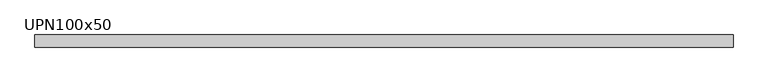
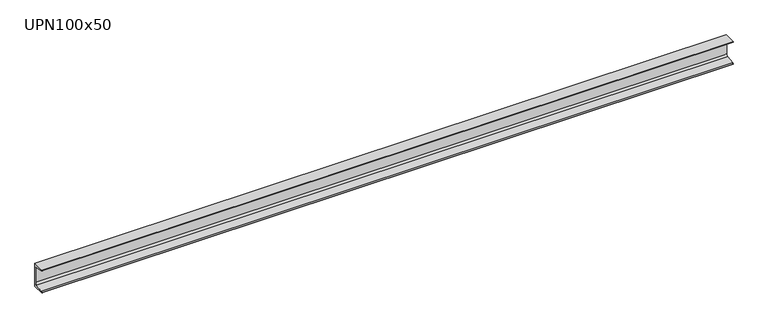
"""IFC4 building model written with IfcOpenShell, lengths in millimetres: beam geometry, M_MC Shapes : UPN100x50."""

from ifc_helpers import new_model, si_unit, point, frame, frame_2d, origin, place, context, project, spatial, polyline, circle_curve, trimmed, segment, composite_curve, outline, extrude, source, transform, mapped, element, save


def upn100x50_32115c67(model_context):
    return source(origin(), model_context, "Body", "SweptSolid", [
        extrude(outline(composite_curve([segment(polyline([(10.9, 50.0), (10.9, -50.0), (-39.1, -50.0), (-39.1, -49.0253247)]), True, "CONTINUOUS"), segment(trimmed(circle_curve(frame_2d((-35.15, -49.0253247)), 3.95), [point((-39.1, -49.0253247))], [point((-35.7993773, -45.1290689))], False, "CARTESIAN"), True, "CONTINUOUS"), segment(polyline([(-35.7993773, -45.1290689), (-0.2512455, -39.2043685)]), True, "CONTINUOUS"), segment(trimmed(circle_curve(frame_2d((-1.55, -31.4118569)), 7.9), [point((-0.2512455, -39.2043685))], [point((6.35, -31.4118569))], True, "CARTESIAN"), True, "CONTINUOUS"), segment(polyline([(6.35, -31.4118569), (6.35, 31.4118569)]), True, "CONTINUOUS"), segment(trimmed(circle_curve(frame_2d((-1.55, 31.4118569)), 7.9), [point((6.35, 31.4118569))], [point((-0.2512455, 39.2043685))], True, "CARTESIAN"), True, "CONTINUOUS"), segment(polyline([(-0.2512455, 39.2043685), (-35.7993773, 45.1290689)]), True, "CONTINUOUS"), segment(trimmed(circle_curve(frame_2d((-35.15, 49.0253247)), 3.95), [point((-35.7993773, 45.1290689))], [point((-39.1, 49.0253247))], False, "CARTESIAN"), True, "CONTINUOUS"), segment(polyline([(-39.1, 49.0253247), (-39.1, 50.0), (10.9, 50.0)]), True, "CONTINUOUS")], self_intersect=False)), frame((-1440.85, 0.0, 0.0), z_axis=(1.0, 0.0, 0.0), x_axis=(0.0, 1.0, 0.0)), (0.0, 0.0, 1.0), 2881.7),
    ])


if __name__ == "__main__":
    model = new_model("IFC4")
    model_context = context("Model", 3, world=origin())
    ifc_project = project(units=[si_unit("LENGTHUNIT", "METRE", prefix="MILLI")], contexts=[model_context])
    site = spatial("IfcSite", under=ifc_project)
    building = spatial("IfcBuilding", under=site)
    placement = place(None, origin())
    upn100x50_shape = upn100x50_32115c67(model_context)
    element("IfcBeam", 1, ObjectType="M_MC Shapes : UPN100x50", at=placement, inside=building, context=model_context, shape_type="MappedRepresentation", body=[
        mapped(upn100x50_shape, transform((0.0, 0.0, 0.0), x_axis=(1.0, 0.0, 0.0), y_axis=(0.0, 1.0, 0.0), z_axis=(0.0, 0.0, 1.0))),
    ])
    save(model, "model.ifc")
